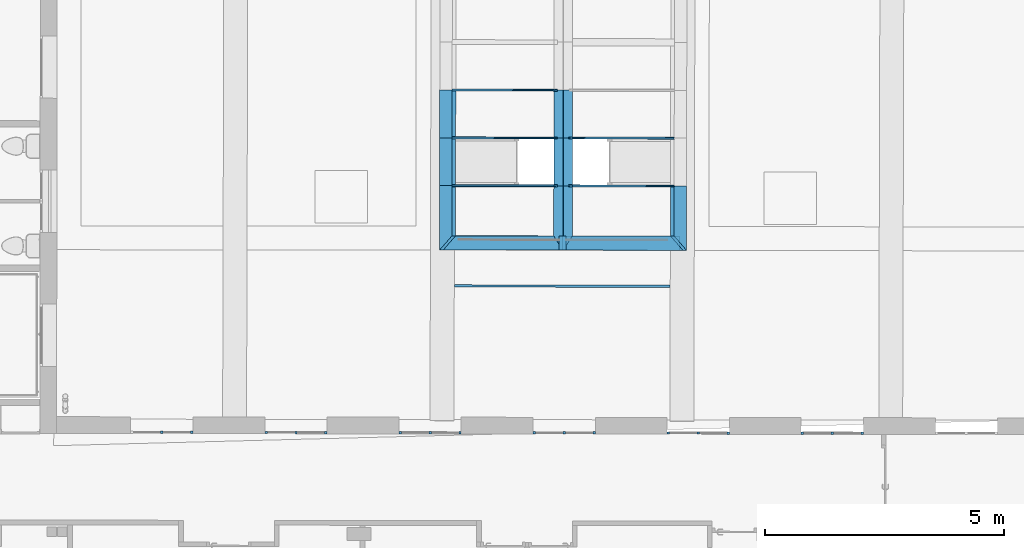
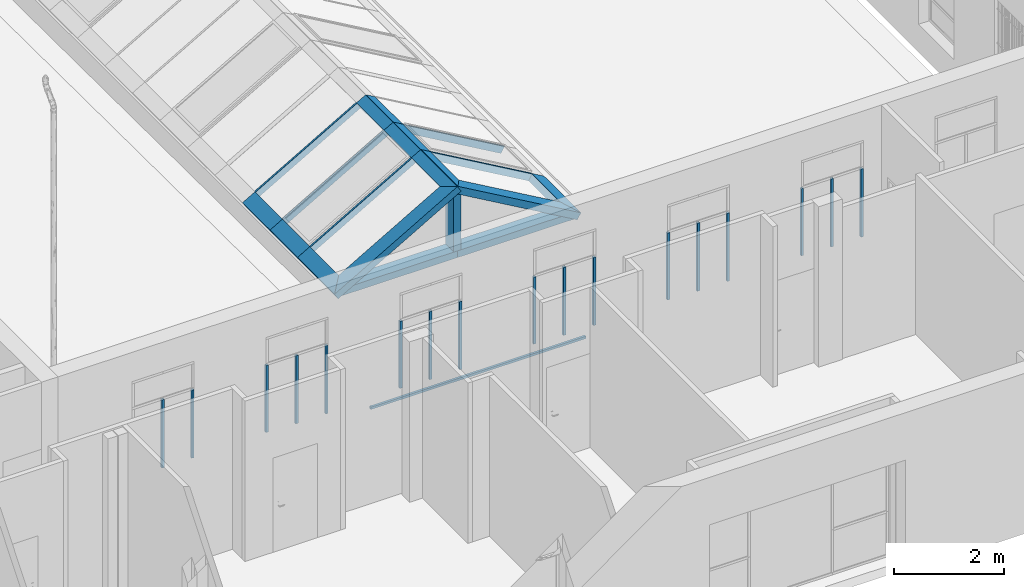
# One storey, part 6 of 101: 37 members, 1 beam, 8 elements without a shape of their own.
"""IFC2X3 building model written with IfcOpenShell, lengths in metres."""

from ifc_helpers import new_model, entity, si_unit, converted_unit, derived_unit, direction, frame, frame_2d, origin, origin_2d_with_axis, place, context, subcontext, project, spatial, polyline, rectangle, outline, extrude, source, transform, mapped, material, type_object, type_shapes, element, aggregate, save


model = new_model("IFC2X3")

# Units and contexts
model_context = context("Model", 3, precision=1e-05, world=origin(), true_north=direction((6.123233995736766e-17, 1.0)))
body_context = subcontext(model_context, "Body", "Model", "MODEL_VIEW")
ifc_project = project(units=[si_unit("LENGTHUNIT", "METRE"), si_unit("AREAUNIT", "SQUARE_METRE"), converted_unit("PLANEANGLEUNIT", "DEGREE", entity("IfcPlaneAngleMeasure", 0.017453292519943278), si_unit("PLANEANGLEUNIT", "RADIAN"), dimensions=[0, 0, 0, 0, 0, 0, 0]), derived_unit("THERMALTRANSMITTANCEUNIT", [(si_unit("MASSUNIT", "GRAM", prefix="KILO"), 1), (si_unit("THERMODYNAMICTEMPERATUREUNIT", "KELVIN"), -1), (si_unit("TIMEUNIT", "SECOND"), -3)])], contexts=[model_context])

# Site, building, storey
site_placement = place(None, frame((1253.6752467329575, 2072.143113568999, 91.49999999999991), z_axis=(0.0, 0.0, 1.0), x_axis=(0.7237211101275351, 0.6900925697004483, 0.0)))
site = spatial("IfcSite", under=ifc_project, at=site_placement, Name="Surface", CompositionType="ELEMENT")
building_placement = place(site_placement, origin())
building = spatial("IfcBuilding", under=site, at=building_placement, CompositionType="ELEMENT")
storey_placement = place(building_placement, origin())
storey = spatial("IfcBuildingStorey", under=building, at=storey_placement, Name="0- Rdc", CompositionType="ELEMENT", Elevation=-5.764692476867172e-13)

# Curtain wall, member
curtain_wall_type_1 = type_object("IfcCurtainWallType", Name="Mur-rideau:Menuiserie Ext 2OF+1F VERTIC", PredefinedType="NOTDEFINED")
curtain_wall_1_placement = place(storey_placement, origin())
curtain_wall_1 = element("IfcCurtainWall", 1, at=curtain_wall_1_placement, inside=storey, type_object=curtain_wall_type_1, Name="Mur-rideau:Menuiserie Ext 2OF+1F VERTIC", ObjectType="Mur-rideau:Menuiserie Ext 2OF+1F VERTIC")
ifc_material_1 = material(Name="OMD_Aluminium Men Ext")
member_type_1 = type_object("IfcMemberType", Name="Meneau rectangulaire:50x50", PredefinedType="MULLION", material=ifc_material_1)
shared_shape_1 = source(origin(), body_context, "Body", "SweptSolid", [
    extrude(rectangle(XDim=0.05, YDim=0.049999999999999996, at=origin_2d_with_axis()), frame((-0.025, 0.0, -1.508333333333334), z_axis=(0.0, 0.0, 1.0), x_axis=(-1.0, 0.0, 0.0)), (0.0, 0.0, 1.0), 1.508333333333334),
])
type_shapes(member_type_1, [shared_shape_1])
member_1_placement = place(curtain_wall_1_placement, frame((161.9095680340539, -1.1032822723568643, 2.2750000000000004), z_axis=(0.0, 0.0, 1.0), x_axis=(0.7228702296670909, -0.6909838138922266, 0.0)))
member_1 = element("IfcMember", 2, at=member_1_placement, type_object=member_type_1, material=ifc_material_1, Name="Meneau rectangulaire:50x50", ObjectType="Meneau rectangulaire:50x50", context=body_context, shape_type="MappedRepresentation", body=[
    mapped(shared_shape_1, transform((0.0, 0.0, 0.0), scale=1.0)),
])

curtain_wall_2_placement = place(storey_placement, origin())
curtain_wall_2 = element("IfcCurtainWall", 3, at=curtain_wall_2_placement, inside=storey, type_object=curtain_wall_type_1, Name="Mur-rideau:Menuiserie Ext 2OF+1F VERTIC", ObjectType="Mur-rideau:Menuiserie Ext 2OF+1F VERTIC")
member_2_placement = place(curtain_wall_2_placement, frame((163.93613235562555, -3.0404531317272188, 2.2750000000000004), z_axis=(0.0, 0.0, 1.0), x_axis=(0.7228702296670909, -0.6909838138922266, 0.0)))
member_2 = element("IfcMember", 4, at=member_2_placement, type_object=member_type_1, material=ifc_material_1, Name="Meneau rectangulaire:50x50", ObjectType="Meneau rectangulaire:50x50", context=body_context, shape_type="MappedRepresentation", body=[
    mapped(shared_shape_1, transform((0.0, 0.0, 0.0), scale=1.0)),
])

curtain_wall_3_placement = place(storey_placement, origin())
curtain_wall_3 = element("IfcCurtainWall", 5, at=curtain_wall_3_placement, inside=storey, type_object=curtain_wall_type_1, Name="Mur-rideau:Menuiserie Ext 2OF+1F VERTIC", ObjectType="Mur-rideau:Menuiserie Ext 2OF+1F VERTIC")
member_3_placement = place(curtain_wall_3_placement, frame((165.9601689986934, -4.975207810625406, 2.2750000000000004), z_axis=(0.0, 0.0, 1.0), x_axis=(0.7228702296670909, -0.6909838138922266, 0.0)))
member_3 = element("IfcMember", 6, at=member_3_placement, type_object=member_type_1, material=ifc_material_1, Name="Meneau rectangulaire:50x50", ObjectType="Meneau rectangulaire:50x50", context=body_context, shape_type="MappedRepresentation", body=[
    mapped(shared_shape_1, transform((0.0, 0.0, 0.0), scale=1.0)),
])

curtain_wall_4_placement = place(storey_placement, origin())
curtain_wall_4 = element("IfcCurtainWall", 7, at=curtain_wall_4_placement, inside=storey, type_object=curtain_wall_type_1, Name="Mur-rideau:Menuiserie Ext 2OF+1F VERTIC", ObjectType="Mur-rideau:Menuiserie Ext 2OF+1F VERTIC")
member_4_placement = place(curtain_wall_4_placement, frame((167.98420564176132, -6.90996248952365, 2.2750000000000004), z_axis=(0.0, 0.0, 1.0), x_axis=(0.7228702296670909, -0.6909838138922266, 0.0)))
member_4 = element("IfcMember", 8, at=member_4_placement, type_object=member_type_1, material=ifc_material_1, Name="Meneau rectangulaire:50x50", ObjectType="Meneau rectangulaire:50x50", context=body_context, shape_type="MappedRepresentation", body=[
    mapped(shared_shape_1, transform((0.0, 0.0, 0.0), scale=1.0)),
])

curtain_wall_5_placement = place(storey_placement, origin())
curtain_wall_5 = element("IfcCurtainWall", 9, at=curtain_wall_5_placement, inside=storey, type_object=curtain_wall_type_1, Name="Mur-rideau:Menuiserie Ext 2OF+1F VERTIC", ObjectType="Mur-rideau:Menuiserie Ext 2OF+1F VERTIC")
member_5_placement = place(curtain_wall_5_placement, frame((170.00824228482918, -8.844717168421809, 2.2750000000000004), z_axis=(0.0, 0.0, 1.0), x_axis=(0.7228702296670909, -0.6909838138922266, 0.0)))
member_5 = element("IfcMember", 10, at=member_5_placement, type_object=member_type_1, material=ifc_material_1, Name="Meneau rectangulaire:50x50", ObjectType="Meneau rectangulaire:50x50", context=body_context, shape_type="MappedRepresentation", body=[
    mapped(shared_shape_1, transform((0.0, 0.0, 0.0), scale=1.0)),
])

curtain_wall_6_placement = place(storey_placement, origin())
curtain_wall_6 = element("IfcCurtainWall", 11, at=curtain_wall_6_placement, inside=storey, type_object=curtain_wall_type_1, Name="Mur-rideau:Menuiserie Ext 2OF+1F VERTIC", ObjectType="Mur-rideau:Menuiserie Ext 2OF+1F VERTIC")
member_6_placement = place(curtain_wall_6_placement, frame((172.03227892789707, -10.77947184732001, 2.2750000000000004), z_axis=(0.0, 0.0, 1.0), x_axis=(0.7228702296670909, -0.6909838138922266, 0.0)))
member_6 = element("IfcMember", 12, at=member_6_placement, type_object=member_type_1, material=ifc_material_1, Name="Meneau rectangulaire:50x50", ObjectType="Meneau rectangulaire:50x50", context=body_context, shape_type="MappedRepresentation", body=[
    mapped(shared_shape_1, transform((0.0, 0.0, 0.0), scale=1.0)),
])

# Member
member_type_2 = type_object("IfcMemberType", Name="Meneau rectangulaire:50x50", PredefinedType="MULLION", material=ifc_material_1)
shared_shape_2 = source(origin(), body_context, "Body", "SweptSolid", [
    extrude(rectangle(XDim=0.05, YDim=0.049999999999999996, at=origin_2d_with_axis()), frame((-0.025, 0.0, -1.4833333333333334), z_axis=(0.0, 0.0, 1.0), x_axis=(-1.0, 0.0, 0.0)), (0.0, 0.0, 1.0), 1.4833333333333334),
])
type_shapes(member_type_2, [shared_shape_2])
member_7_placement = place(curtain_wall_2_placement, frame((162.99662087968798, -2.1423842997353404, 0.7916666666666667), z_axis=(0.0, 0.0, -1.0), x_axis=(-0.7228702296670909, 0.6909838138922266, 0.0)))
member_7 = element("IfcMember", 13, at=member_7_placement, type_object=member_type_2, material=ifc_material_1, Name="Meneau rectangulaire:50x50", ObjectType="Meneau rectangulaire:50x50", context=body_context, shape_type="MappedRepresentation", body=[
    mapped(shared_shape_2, transform((0.0, 0.0, 0.0), scale=1.0)),
])

member_8_placement = place(curtain_wall_3_placement, frame((165.02065752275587, -4.077138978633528, 0.7916666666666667), z_axis=(0.0, 0.0, -1.0), x_axis=(-0.7228702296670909, 0.6909838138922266, 0.0)))
member_8 = element("IfcMember", 14, at=member_8_placement, type_object=member_type_2, material=ifc_material_1, Name="Meneau rectangulaire:50x50", ObjectType="Meneau rectangulaire:50x50", context=body_context, shape_type="MappedRepresentation", body=[
    mapped(shared_shape_2, transform((0.0, 0.0, 0.0), scale=1.0)),
])

member_9_placement = place(curtain_wall_4_placement, frame((167.0446941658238, -6.011893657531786, 0.7916666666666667), z_axis=(0.0, 0.0, -1.0), x_axis=(-0.7228702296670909, 0.6909838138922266, 0.0)))
member_9 = element("IfcMember", 15, at=member_9_placement, type_object=member_type_2, material=ifc_material_1, Name="Meneau rectangulaire:50x50", ObjectType="Meneau rectangulaire:50x50", context=body_context, shape_type="MappedRepresentation", body=[
    mapped(shared_shape_2, transform((0.0, 0.0, 0.0), scale=1.0)),
])

member_10_placement = place(curtain_wall_5_placement, frame((169.06873080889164, -7.946648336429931, 0.7916666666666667), z_axis=(0.0, 0.0, -1.0), x_axis=(-0.7228702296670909, 0.6909838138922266, 0.0)))
member_10 = element("IfcMember", 16, at=member_10_placement, type_object=member_type_2, material=ifc_material_1, Name="Meneau rectangulaire:50x50", ObjectType="Meneau rectangulaire:50x50", context=body_context, shape_type="MappedRepresentation", body=[
    mapped(shared_shape_2, transform((0.0, 0.0, 0.0), scale=1.0)),
])

member_11_placement = place(curtain_wall_6_placement, frame((171.09276745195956, -9.881403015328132, 0.7916666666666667), z_axis=(0.0, 0.0, -1.0), x_axis=(-0.7228702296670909, 0.6909838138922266, 0.0)))
member_11 = element("IfcMember", 17, at=member_11_placement, type_object=member_type_2, material=ifc_material_1, Name="Meneau rectangulaire:50x50", ObjectType="Meneau rectangulaire:50x50", context=body_context, shape_type="MappedRepresentation", body=[
    mapped(shared_shape_2, transform((0.0, 0.0, 0.0), scale=1.0)),
])

member_type_3 = type_object("IfcMemberType", Name="Meneau rectangulaire:50x50", PredefinedType="MULLION", material=ifc_material_1)
shared_shape_3 = source(origin(), body_context, "Body", "SweptSolid", [
    extrude(rectangle(XDim=0.05, YDim=0.05, at=frame_2d((0.0, 1.734723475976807e-18), x_axis=(1.0, 0.0))), frame((0.0, 0.0, -1.5083333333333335), z_axis=(0.0, 0.0, 1.0), x_axis=(-1.0, 0.0, 0.0)), (0.0, 0.0, 1.0), 1.5083333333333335),
])
type_shapes(member_type_3, [shared_shape_3])
member_12_placement = place(curtain_wall_1_placement, frame((161.4398122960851, -0.6542478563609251, 0.7666666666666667), z_axis=(0.0, 0.0, -1.0), x_axis=(-0.7228702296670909, 0.6909838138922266, 0.0)))
member_12 = element("IfcMember", 18, at=member_12_placement, type_object=member_type_3, material=ifc_material_1, Name="Meneau rectangulaire:50x50", ObjectType="Meneau rectangulaire:50x50", context=body_context, shape_type="MappedRepresentation", body=[
    mapped(shared_shape_3, transform((0.0, 0.0, 0.0), scale=1.0)),
])

aggregate(curtain_wall_1, [member_1, member_12])

member_13_placement = place(curtain_wall_2_placement, frame((163.46637661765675, -2.5914187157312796, 0.7666666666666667), z_axis=(0.0, 0.0, -1.0), x_axis=(-0.7228702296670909, 0.6909838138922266, 0.0)))
member_13 = element("IfcMember", 19, at=member_13_placement, type_object=member_type_3, material=ifc_material_1, Name="Meneau rectangulaire:50x50", ObjectType="Meneau rectangulaire:50x50", context=body_context, shape_type="MappedRepresentation", body=[
    mapped(shared_shape_3, transform((0.0, 0.0, 0.0), scale=1.0)),
])

aggregate(curtain_wall_2, [member_2, member_7, member_13])

member_14_placement = place(curtain_wall_3_placement, frame((165.49041326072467, -4.526173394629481, 0.7666666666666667), z_axis=(0.0, 0.0, -1.0), x_axis=(-0.7228702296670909, 0.6909838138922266, 0.0)))
member_14 = element("IfcMember", 20, at=member_14_placement, type_object=member_type_3, material=ifc_material_1, Name="Meneau rectangulaire:50x50", ObjectType="Meneau rectangulaire:50x50", context=body_context, shape_type="MappedRepresentation", body=[
    mapped(shared_shape_3, transform((0.0, 0.0, 0.0), scale=1.0)),
])

aggregate(curtain_wall_3, [member_3, member_8, member_14])

member_15_placement = place(curtain_wall_4_placement, frame((167.51444990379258, -6.460928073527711, 0.7666666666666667), z_axis=(0.0, 0.0, -1.0), x_axis=(-0.7228702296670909, 0.6909838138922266, 0.0)))
member_15 = element("IfcMember", 21, at=member_15_placement, type_object=member_type_3, material=ifc_material_1, Name="Meneau rectangulaire:50x50", ObjectType="Meneau rectangulaire:50x50", context=body_context, shape_type="MappedRepresentation", body=[
    mapped(shared_shape_3, transform((0.0, 0.0, 0.0), scale=1.0)),
])

aggregate(curtain_wall_4, [member_4, member_9, member_15])

member_16_placement = place(curtain_wall_5_placement, frame((169.53848654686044, -8.395682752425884, 0.7666666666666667), z_axis=(0.0, 0.0, -1.0), x_axis=(-0.7228702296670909, 0.6909838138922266, 0.0)))
member_16 = element("IfcMember", 22, at=member_16_placement, type_object=member_type_3, material=ifc_material_1, Name="Meneau rectangulaire:50x50", ObjectType="Meneau rectangulaire:50x50", context=body_context, shape_type="MappedRepresentation", body=[
    mapped(shared_shape_3, transform((0.0, 0.0, 0.0), scale=1.0)),
])

aggregate(curtain_wall_5, [member_5, member_10, member_16])

member_17_placement = place(curtain_wall_6_placement, frame((171.5625231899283, -10.330437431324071, 0.7666666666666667), z_axis=(0.0, 0.0, -1.0), x_axis=(-0.7228702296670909, 0.6909838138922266, 0.0)))
member_17 = element("IfcMember", 23, at=member_17_placement, type_object=member_type_3, material=ifc_material_1, Name="Meneau rectangulaire:50x50", ObjectType="Meneau rectangulaire:50x50", context=body_context, shape_type="MappedRepresentation", body=[
    mapped(shared_shape_3, transform((0.0, 0.0, 0.0), scale=1.0)),
])

aggregate(curtain_wall_6, [member_6, member_11, member_17])

# Beam
ifc_material_2 = material(Name="RAL 7016 - Anthracite Grey")
beam_type = type_object("IfcBeamType", Name="ART-Béton - Poutre rectangulaire:Po 5x5 ht acier", PredefinedType="BEAM")
beam_placement = place(storey_placement, frame((167.97812515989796, -2.6623825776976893, -1.889999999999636), z_axis=(0.0, 0.0, 1.0), x_axis=(0.7228465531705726, -0.6910085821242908, 0.0)))
element("IfcBeam", 24, at=beam_placement, inside=storey, type_object=beam_type, material=ifc_material_2, Name="ART-Béton - Poutre rectangulaire:Po 5x5 ht acier", ObjectType="ART-Béton - Poutre rectangulaire:Po 5x5 ht acier", context=body_context, shape_type="SweptSolid", body=[
    extrude(rectangle(XDim=0.05, YDim=0.049999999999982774, at=frame_2d((0.0, 2.3711935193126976e-14), x_axis=(1.0, 0.0))), frame((0.0, 0.0, -0.025000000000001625), z_axis=(1.0, 0.0, 0.0), x_axis=(0.0, 0.0, -1.0)), (0.0, 0.0, 1.0), 4.500000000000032),
])

# Roof, members
curtain_wall_type_2 = type_object("IfcCurtainWallType", Name="Vitres inclinées:Toit en verre 1 m x 2 m", PredefinedType="NOTDEFINED")
roof_placement = place(storey_placement, origin())
roof = element("IfcRoof", 25, at=roof_placement, inside=storey, type_object=curtain_wall_type_2, Name="Vitres inclinées:Toit en verre 1 m x 2 m", ObjectType="Vitres inclinées:Toit en verre 1 m x 2 m", ShapeType="NOTDEFINED")
ifc_material_3 = material(Name="OMD_Aluminium blanc")
member_type_4 = type_object("IfcMemberType", Name="Meneau rectangulaire:22x300", PredefinedType="MULLION", material=ifc_material_3)
shared_shape_4 = source(origin(), body_context, "Body", "SweptSolid", [
    extrude(outline(polyline([(-1.465965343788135, -0.15000000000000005), (1.5060833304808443, -0.14999999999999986), (1.2059653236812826, 0.15000000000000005), (-1.246083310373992, 0.1499999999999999), (-1.465965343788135, -0.15000000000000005)])), frame((-0.15000000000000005, -0.01000000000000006, -1.4659653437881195), z_axis=(0.0, 1.0, 0.0), x_axis=(0.0, 0.0, -1.0)), (0.0, 0.0, 1.0), 0.14999999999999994),
])
type_shapes(member_type_4, [shared_shape_4])
member_18_placement = place(roof_placement, frame((170.13000075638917, -3.6839148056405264, 1.7319236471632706), z_axis=(0.6262956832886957, -0.5981252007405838, 0.4999999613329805), x_axis=(-0.6906760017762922, -0.7231643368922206, 4.916858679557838e-05)))
member_18 = element("IfcMember", 26, at=member_18_placement, type_object=member_type_4, material=ifc_material_3, Name="Meneau rectangulaire:22x300", ObjectType="Meneau rectangulaire:22x300", context=body_context, shape_type="MappedRepresentation", body=[
    mapped(shared_shape_4, transform((0.0, 0.0, 0.0), scale=1.0)),
])
member_type_5 = type_object("IfcMemberType", Name="Meneau rectangulaire:37.5x150", PredefinedType="MULLION", material=ifc_material_3)
shared_shape_5 = source(origin(), body_context, "Body", "SweptSolid", [
    extrude(rectangle(XDim=0.0376, YDim=0.14999999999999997, at=origin_2d_with_axis()), frame((0.0, 0.06499999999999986, -2.452048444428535), z_axis=(0.0, 0.0, 1.0), x_axis=(-1.0, 0.0, 0.0)), (0.0, 0.0, 1.0), 2.452048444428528),
])
type_shapes(member_type_5, [shared_shape_5])
member_19_placement = place(roof_placement, frame((171.611706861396, -1.8581023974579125, 1.6219236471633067), z_axis=(0.6260239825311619, -0.5984095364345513, 0.5000000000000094), x_axis=(-0.690983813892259, -0.7228702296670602, 0.0)))
member_19 = element("IfcMember", 27, at=member_19_placement, type_object=member_type_5, material=ifc_material_3, Name="Meneau rectangulaire:37.5x150", ObjectType="Meneau rectangulaire:37.5x150", context=body_context, shape_type="MappedRepresentation", body=[
    mapped(shared_shape_5, transform((0.0, 0.0, 0.0), scale=1.0)),
])
member_20_placement = place(roof_placement, frame((170.9207230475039, -2.580972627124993, 1.6219236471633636), z_axis=(0.6260239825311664, -0.5984095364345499, 0.5000000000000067), x_axis=(-0.690983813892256, -0.7228702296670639, 0.0)))
member_20 = element("IfcMember", 28, at=member_20_placement, type_object=member_type_5, material=ifc_material_3, Name="Meneau rectangulaire:37.5x150", ObjectType="Meneau rectangulaire:37.5x150", context=body_context, shape_type="MappedRepresentation", body=[
    mapped(shared_shape_5, transform((0.0, 0.0, 0.0), scale=1.0)),
])
member_21_placement = place(roof_placement, frame((172.30269067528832, -1.1352321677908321, 1.6219236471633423), z_axis=(0.626023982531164, -0.598409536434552, 0.5000000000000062), x_axis=(-0.6909838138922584, -0.722870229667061, 0.0)))
member_21 = element("IfcMember", 29, at=member_21_placement, type_object=member_type_5, material=ifc_material_3, Name="Meneau rectangulaire:37.5x150", ObjectType="Meneau rectangulaire:37.5x150", context=body_context, shape_type="MappedRepresentation", body=[
    mapped(shared_shape_5, transform((0.0, 0.0, 0.0), scale=1.0)),
])
member_type_6 = type_object("IfcMemberType", Name="Meneau rectangulaire:22x300", PredefinedType="MULLION", material=ifc_material_3)
shared_shape_6 = source(origin(), body_context, "Body", "SweptSolid", [
    extrude(rectangle(XDim=0.29999999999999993, YDim=0.14999999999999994, at=frame_2d((1.3877787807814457e-17, 0.0), x_axis=(1.0, 0.0))), frame((-0.14999999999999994, 0.06500000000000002, -1.0), z_axis=(0.0, 0.0, 1.0), x_axis=(-1.0, 0.0, 0.0)), (0.0, 0.0, 1.0), 1.0000000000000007),
])
type_shapes(member_type_6, [shared_shape_6])
member_22_placement = place(roof_placement, frame((169.88885853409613, -0.21125036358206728, 0.24589942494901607), z_axis=(-0.690983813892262, -0.7228702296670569, 0.0), x_axis=(-0.6260239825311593, 0.5984095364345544, -0.5000000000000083)))
member_22 = element("IfcMember", 30, at=member_22_placement, type_object=member_type_6, material=ifc_material_3, Name="Meneau rectangulaire:22x300", ObjectType="Meneau rectangulaire:22x300", context=body_context, shape_type="MappedRepresentation", body=[
    mapped(shared_shape_6, transform((0.0, 0.0, 0.0), scale=1.0)),
])
member_23_placement = place(roof_placement, frame((169.19787472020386, -0.9341205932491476, 0.24589942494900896), z_axis=(-0.6909838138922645, -0.7228702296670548, 0.0), x_axis=(-0.6260239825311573, 0.5984095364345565, -0.5000000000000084)))
member_23 = element("IfcMember", 31, at=member_23_placement, type_object=member_type_6, material=ifc_material_3, Name="Meneau rectangulaire:22x300", ObjectType="Meneau rectangulaire:22x300", context=body_context, shape_type="MappedRepresentation", body=[
    mapped(shared_shape_6, transform((0.0, 0.0, 0.0), scale=1.0)),
])
member_type_7 = type_object("IfcMemberType", Name="Meneau rectangulaire:22x150", PredefinedType="MULLION", material=ifc_material_3)
shared_shape_7 = source(origin(), body_context, "Body", "SweptSolid", [
    extrude(rectangle(XDim=0.22000000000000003, YDim=0.14999999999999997, at=frame_2d((-6.938893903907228e-18, 0.0), x_axis=(1.0, 0.0))), frame((-0.10999999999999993, 0.06499999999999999, -1.0), z_axis=(0.0, 0.0, 1.0), x_axis=(-1.0, 0.0, 0.0)), (0.0, 0.0, 1.0), 1.0000000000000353),
])
type_shapes(member_type_7, [shared_shape_7])
member_24_placement = place(roof_placement, frame((171.7494321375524, -1.9897524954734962, 1.731923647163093), z_axis=(0.6909838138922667, 0.7228702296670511, 0.0), x_axis=(0.6260239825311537, -0.5984095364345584, 0.5000000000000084)))
member_24 = element("IfcMember", 32, at=member_24_placement, type_object=member_type_7, material=ifc_material_3, Name="Meneau rectangulaire:22x150", ObjectType="Meneau rectangulaire:22x150", context=body_context, shape_type="MappedRepresentation", body=[
    mapped(shared_shape_7, transform((0.0, 0.0, 0.0), scale=1.0)),
])
member_25_placement = place(roof_placement, frame((172.4404159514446, -1.2668822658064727, 1.7319236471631), z_axis=(0.6909838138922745, 0.7228702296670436, 0.0), x_axis=(0.6260239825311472, -0.5984095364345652, 0.5000000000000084)))
member_25 = element("IfcMember", 33, at=member_25_placement, type_object=member_type_7, material=ifc_material_3, Name="Meneau rectangulaire:22x150", ObjectType="Meneau rectangulaire:22x150", context=body_context, shape_type="MappedRepresentation", body=[
    mapped(shared_shape_7, transform((0.0, 0.0, 0.0), scale=1.0)),
])
member_26_placement = place(roof_placement, frame((171.05844832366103, -2.7126227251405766, 1.7319236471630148), z_axis=(-0.6909838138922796, -0.7228702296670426, 0.0), x_axis=(-0.6260239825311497, 0.5984095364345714, 0.5000000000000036)))
member_26 = element("IfcMember", 34, at=member_26_placement, type_object=member_type_7, material=ifc_material_3, Name="Meneau rectangulaire:22x150", ObjectType="Meneau rectangulaire:22x150", context=body_context, shape_type="MappedRepresentation", body=[
    mapped(shared_shape_7, transform((0.0, 0.0, 0.0), scale=1.0)),
])
member_27_placement = place(roof_placement, frame((171.74943213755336, -1.9897524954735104, 1.731923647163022), z_axis=(-0.6909838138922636, -0.7228702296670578, 0.0), x_axis=(-0.6260239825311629, 0.5984095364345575, 0.5000000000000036)))
member_27 = element("IfcMember", 35, at=member_27_placement, type_object=member_type_7, material=ifc_material_3, Name="Meneau rectangulaire:22x150", ObjectType="Meneau rectangulaire:22x150", context=body_context, shape_type="MappedRepresentation", body=[
    mapped(shared_shape_7, transform((0.0, 0.0, 0.0), scale=1.0)),
])
member_type_8 = type_object("IfcMemberType", Name="Meneau rectangulaire:22x150", PredefinedType="MULLION", material=ifc_material_3)
shared_shape_8 = source(origin(), body_context, "Body", "SweptSolid", [
    extrude(outline(polyline([(-0.596851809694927, -0.10999999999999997), (0.7468085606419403, -0.11000000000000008), (0.44689505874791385, 0.10999999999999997), (-0.596851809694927, 0.11000000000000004), (-0.596851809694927, -0.10999999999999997)])), frame((-0.10999999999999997, -0.009999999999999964, -0.5968518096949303), z_axis=(0.0, 1.0, 0.0), x_axis=(0.0, 0.0, -1.0)), (0.0, 0.0, 1.0), 0.14999999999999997),
])
type_shapes(member_type_8, [shared_shape_8])
member_28_placement = place(roof_placement, frame((171.05844832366, -2.712622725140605, 1.731923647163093), z_axis=(0.6909838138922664, 0.7228702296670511, 0.0), x_axis=(0.6260239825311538, -0.5984095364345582, 0.5000000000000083)))
member_28 = element("IfcMember", 36, at=member_28_placement, type_object=member_type_8, material=ifc_material_3, Name="Meneau rectangulaire:22x150", ObjectType="Meneau rectangulaire:22x150", context=body_context, shape_type="MappedRepresentation", body=[
    mapped(shared_shape_8, transform((0.0, 0.0, 0.0), scale=1.0)),
])
member_type_9 = type_object("IfcMemberType", Name="Meneau rectangulaire:22x300", PredefinedType="MULLION", material=ifc_material_3)
shared_shape_9 = source(origin(), body_context, "Body", "SweptSolid", [
    extrude(outline(polyline([(-0.7474441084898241, -0.14999999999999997), (0.5973851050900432, -0.14999999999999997), (0.5973851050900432, 0.14999999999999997), (-0.4473261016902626, 0.15), (-0.7474441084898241, -0.14999999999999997)])), frame((-0.15000000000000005, -0.00999999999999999, -0.7474441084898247), z_axis=(0.0, 1.0, 0.0), x_axis=(0.0, 0.0, -1.0)), (0.0, 0.0, 1.0), 0.14999999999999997),
])
type_shapes(member_type_9, [shared_shape_9])
member_29_placement = place(roof_placement, frame((168.2686195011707, -1.9062575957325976, 0.24589942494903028), z_axis=(-0.6909838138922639, -0.7228702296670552, 0.0), x_axis=(-0.6260239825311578, 0.598409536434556, -0.5000000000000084)))
member_29 = element("IfcMember", 37, at=member_29_placement, type_object=member_type_9, material=ifc_material_3, Name="Meneau rectangulaire:22x300", ObjectType="Meneau rectangulaire:22x300", context=body_context, shape_type="MappedRepresentation", body=[
    mapped(shared_shape_9, transform((0.0, 0.0, 0.0), scale=1.0)),
])
member_type_10 = type_object("IfcMemberType", Name="Meneau rectangulaire:22x300", PredefinedType="MULLION", material=ifc_material_3)
shared_shape_10 = source(origin(), body_context, "Body", "SweptSolid", [
    extrude(outline(polyline([(-0.5962752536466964, -0.15), (0.7462162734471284, -0.14999999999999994), (0.44633423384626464, 0.15), (-0.5962752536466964, 0.14999999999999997), (-0.5962752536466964, -0.15)])), frame((-0.15, -0.010000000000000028, -0.5962752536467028), z_axis=(0.0, 1.0, 0.0), x_axis=(0.0, 0.0, -1.0)), (0.0, 0.0, 1.0), 0.14999999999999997),
])
type_shapes(member_type_10, [shared_shape_10])
member_30_placement = place(roof_placement, frame((172.91902192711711, -4.491124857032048, 0.24589942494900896), z_axis=(0.6909838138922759, 0.7228702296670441, 0.0), x_axis=(0.6260239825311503, -0.5984095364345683, -0.5000000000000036)))
member_30 = element("IfcMember", 38, at=member_30_placement, type_object=member_type_10, material=ifc_material_3, Name="Meneau rectangulaire:22x300", ObjectType="Meneau rectangulaire:22x300", context=body_context, shape_type="MappedRepresentation", body=[
    mapped(shared_shape_10, transform((0.0, 0.0, 0.0), scale=1.0)),
])
member_type_11 = type_object("IfcMemberType", Name="Meneau rectangulaire:37.5x150", PredefinedType="MULLION", material=ifc_material_3)
shared_shape_11 = source(origin(), body_context, "Body", "SweptSolid", [
    extrude(rectangle(XDim=0.0376, YDim=0.15, at=origin_2d_with_axis()), frame((0.0, 0.06499999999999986, -2.4520484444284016), z_axis=(0.0, 0.0, 1.0), x_axis=(-1.0, 0.0, 0.0)), (0.0, 0.0, 1.0), 2.452048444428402),
])
type_shapes(member_type_11, [shared_shape_11])
member_31_placement = place(roof_placement, frame((171.19617359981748, -2.8442728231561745, 1.621923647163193), z_axis=(-0.6260239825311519, 0.5984095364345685, 0.5000000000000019), x_axis=(0.6909838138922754, 0.7228702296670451, 0.0)))
member_31 = element("IfcMember", 39, at=member_31_placement, type_object=member_type_11, material=ifc_material_3, Name="Meneau rectangulaire:37.5x150", ObjectType="Meneau rectangulaire:37.5x150", context=body_context, shape_type="MappedRepresentation", body=[
    mapped(shared_shape_11, transform((0.0, 0.0, 0.0), scale=1.0)),
])
member_32_placement = place(roof_placement, frame((171.8871574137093, -2.1214025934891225, 1.6219236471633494), z_axis=(-0.6260239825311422, 0.5984095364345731, 0.5000000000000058), x_axis=(0.6909838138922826, 0.7228702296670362, 0.0)))
member_32 = element("IfcMember", 40, at=member_32_placement, type_object=member_type_11, material=ifc_material_3, Name="Meneau rectangulaire:37.5x150", ObjectType="Meneau rectangulaire:37.5x150", context=body_context, shape_type="MappedRepresentation", body=[
    mapped(shared_shape_11, transform((0.0, 0.0, 0.0), scale=1.0)),
])
member_type_12 = type_object("IfcMemberType", Name="Meneau rectangulaire:22x150", PredefinedType="MULLION", material=ifc_material_3)
shared_shape_12 = source(origin(), body_context, "Body", "SweptSolid", [
    extrude(outline(polyline([(-0.7468518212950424, -0.10999999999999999), (0.5968085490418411, -0.10999999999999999), (0.5968085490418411, 0.11), (-0.4467652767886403, 0.11), (-0.7468518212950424, -0.10999999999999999)])), frame((-0.11000000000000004, -0.009999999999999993, -0.746851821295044), z_axis=(0.0, 1.0, 0.0), x_axis=(0.0, 0.0, -1.0)), (0.0, 0.0, 1.0), 0.14999999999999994),
])
type_shapes(member_type_12, [shared_shape_12])
member_33_placement = place(roof_placement, frame((170.13000075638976, -3.683914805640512, 1.7319236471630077), z_axis=(-0.6909838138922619, -0.7228702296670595, 0.0), x_axis=(-0.6260239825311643, 0.5984095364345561, 0.5000000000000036)))
member_33 = element("IfcMember", 41, at=member_33_placement, type_object=member_type_12, material=ifc_material_3, Name="Meneau rectangulaire:22x150", ObjectType="Meneau rectangulaire:22x150", context=body_context, shape_type="MappedRepresentation", body=[
    mapped(shared_shape_12, transform((0.0, 0.0, 0.0), scale=1.0)),
])
member_type_13 = type_object("IfcMemberType", Name="Meneau rectangulaire:22x300", PredefinedType="MULLION", material=ifc_material_3)
shared_shape_13 = source(origin(), body_context, "Body", "SweptSolid", [
    extrude(outline(polyline([(-1.5059653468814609, -0.14999999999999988), (1.4660833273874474, -0.15000000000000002), (1.2459653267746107, 0.1499999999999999), (-1.2060833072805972, 0.15000000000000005), (-1.5059653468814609, -0.14999999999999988)])), frame((-0.14999999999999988, -0.010000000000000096, -1.50596534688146), z_axis=(0.0, 1.0, 0.0), x_axis=(0.0, 0.0, -1.0)), (0.0, 0.0, 1.0), 0.14999999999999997),
])
type_shapes(member_type_13, [shared_shape_13])
member_34_placement = place(roof_placement, frame((171.9913820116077, -5.461572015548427, 0.2458994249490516), z_axis=(0.6262956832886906, -0.598125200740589, -0.499999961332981), x_axis=(-0.6906760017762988, -0.7231643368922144, -4.916858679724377e-05)))
member_34 = element("IfcMember", 42, at=member_34_placement, type_object=member_type_13, material=ifc_material_3, Name="Meneau rectangulaire:22x300", ObjectType="Meneau rectangulaire:22x300", context=body_context, shape_type="MappedRepresentation", body=[
    mapped(shared_shape_13, transform((0.0, 0.0, 0.0), scale=1.0)),
])
aggregate(roof, [member_18, member_22, member_24, member_19, member_23, member_28, member_20, member_25, member_21, member_29, member_30, member_31, member_32, member_33, member_26, member_27, member_34])

# Curtain wall, members
curtain_wall_type_3 = type_object("IfcCurtainWallType", Name="Mur-rideau:Menuiserie Ext", PredefinedType="NOTDEFINED")
curtain_wall_7_placement = place(storey_placement, origin())
curtain_wall_7 = element("IfcCurtainWall", 43, at=curtain_wall_7_placement, inside=storey, type_object=curtain_wall_type_3, Name="Mur-rideau:Menuiserie Ext", ObjectType="Mur-rideau:Menuiserie Ext")
member_type_14 = type_object("IfcMemberType", Name="Meneau rectangulaire:300x22", PredefinedType="MULLION", material=ifc_material_3)
shared_shape_14 = source(origin(), body_context, "Body", "SweptSolid", [
    extrude(rectangle(XDim=0.14999999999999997, YDim=0.3, at=origin_2d_with_axis()), frame((-0.07499999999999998, -0.06499999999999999, -2.44360025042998), z_axis=(0.0, 0.0, 1.0), x_axis=(-1.0, 0.0, 0.0)), (0.0, 0.0, 1.0), 2.4436002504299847),
])
type_shapes(member_type_14, [shared_shape_14])
member_35_placement = place(curtain_wall_7_placement, frame((172.039427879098, -5.209575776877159, 0.16472074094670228), z_axis=(0.7228702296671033, -0.6909838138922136, 0.0), x_axis=(0.0, 0.0, -1.0)))
member_35 = element("IfcMember", 44, at=member_35_placement, type_object=member_type_14, material=ifc_material_3, Name="Meneau rectangulaire:300x22", ObjectType="Meneau rectangulaire:300x22", context=body_context, shape_type="MappedRepresentation", body=[
    mapped(shared_shape_14, transform((0.0, 0.0, 0.0), scale=1.0)),
])
member_type_15 = type_object("IfcMemberType", Name="Meneau rectangulaire:300x22", PredefinedType="MULLION", material=ifc_material_3)
shared_shape_15 = source(origin(), body_context, "Body", "SweptSolid", [
    extrude(rectangle(XDim=0.14999999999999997, YDim=0.29999999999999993, at=frame_2d((0.0, 2.7755575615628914e-17), x_axis=(1.0, 0.0))), frame((-0.07499999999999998, -0.06499999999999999, -2.4253498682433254), z_axis=(0.0, 0.0, 1.0), x_axis=(-1.0, 0.0, 0.0)), (0.0, 0.0, 1.0), 2.4253498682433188),
])
type_shapes(member_type_15, [shared_shape_15])
member_36_placement = place(curtain_wall_7_placement, frame((170.27302200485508, -3.5210875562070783, 0.16472074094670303), z_axis=(0.7228702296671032, -0.6909838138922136, 0.0), x_axis=(0.0, 0.0, -1.0)))
member_36 = element("IfcMember", 45, at=member_36_placement, type_object=member_type_15, material=ifc_material_3, Name="Meneau rectangulaire:300x22", ObjectType="Meneau rectangulaire:300x22", context=body_context, shape_type="MappedRepresentation", body=[
    mapped(shared_shape_15, transform((0.0, 0.0, 0.0), scale=1.0)),
])
member_type_16 = type_object("IfcMemberType", Name="Meneau rectangulaire:300x22", PredefinedType="MULLION", material=ifc_material_3)
shared_shape_16 = source(origin(), body_context, "Body", "SweptSolid", [
    extrude(rectangle(XDim=0.14999999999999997, YDim=0.3, at=origin_2d_with_axis()), frame((0.0, -0.06499999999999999, -1.2502763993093), z_axis=(0.0, 0.0, 1.0), x_axis=(-1.0, 0.0, 0.0)), (0.0, 0.0, 1.0), 1.2502763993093),
])
type_shapes(member_type_16, [shared_shape_16])
member_37_placement = place(curtain_wall_7_placement, frame((170.27302200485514, -3.5210875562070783, 0.314720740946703), z_axis=(0.0, 0.0, -1.0), x_axis=(-0.722870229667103, 0.6909838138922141, 0.0)))
member_37 = element("IfcMember", 46, at=member_37_placement, type_object=member_type_16, material=ifc_material_3, Name="Meneau rectangulaire:300x22", ObjectType="Meneau rectangulaire:300x22", context=body_context, shape_type="MappedRepresentation", body=[
    mapped(shared_shape_16, transform((0.0, 0.0, 0.0), scale=1.0)),
])
aggregate(curtain_wall_7, [member_35, member_36, member_37])

save(model, "model.ifc")
